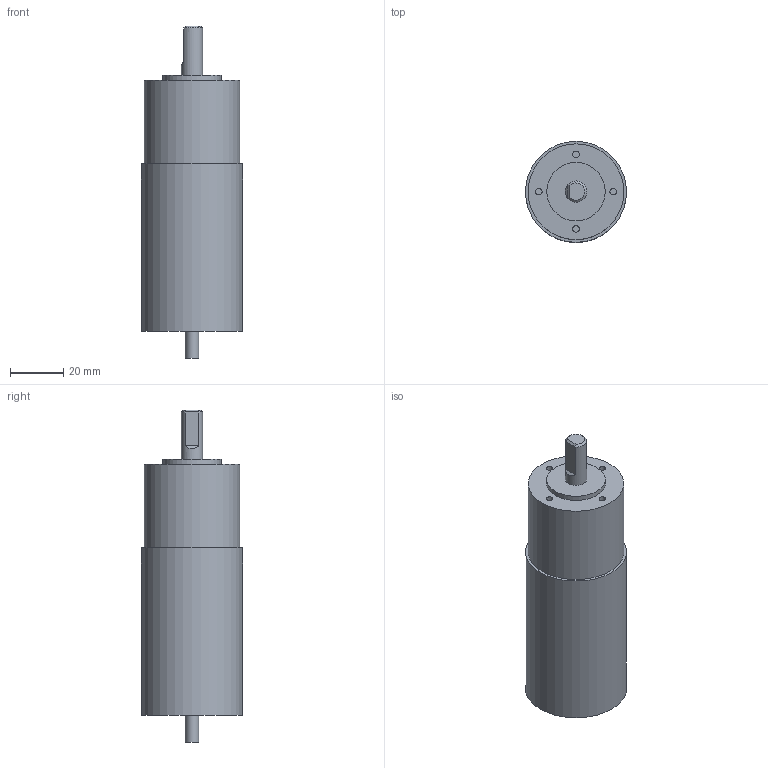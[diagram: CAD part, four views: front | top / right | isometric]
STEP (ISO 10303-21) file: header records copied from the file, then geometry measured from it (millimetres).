
FILE_DESCRIPTION(/* description */ ('Alibre Inc.'),/* implementation_level */ '2;1');
FILE_NAME(/* name */ 'export0',/* time_stamp */ '2013-08-07T14:08:07-06:00',/* author */ (''),/* organization */ (''),/* preprocessor_version */ 'ST-DEVELOPER v14',/* originating_system */ 'Alibre',/* authorisation */ '');
FILE_SCHEMA (('ALIBRE_SCHEMA','CONFIG_CONTROL_DESIGN'));
Length unit declared in the file: centimetre
Products named in the file (1): ID_1
Bounding box: 38 x 38 x 124.9 mm (x, y, z)
Volume: 105210 mm3; surface area: 14239.3 mm2
Topology: 1 solids, 1 shells, 23 faces, 37 edges, 24 vertices
Faces by surface type: plane 13, cylinder 9, cone 1
Full cylindrical faces by diameter (mm): 2.459 x4, 5 x1, 8 x1, 22 x1, 36 x1, 38 x1
Entity records: 1393 total; most frequent: CARTESIAN_POINT 164, DIRECTION 97, AXIS2_PLACEMENT_3D 57, PERSISTANTTOPOLOGYATTRIBUTE 55, ORIENTED_EDGE 54, REFERENCEDEPENDENTUV 42, EDGE_LOOP 40, FACE_BOUND 40
